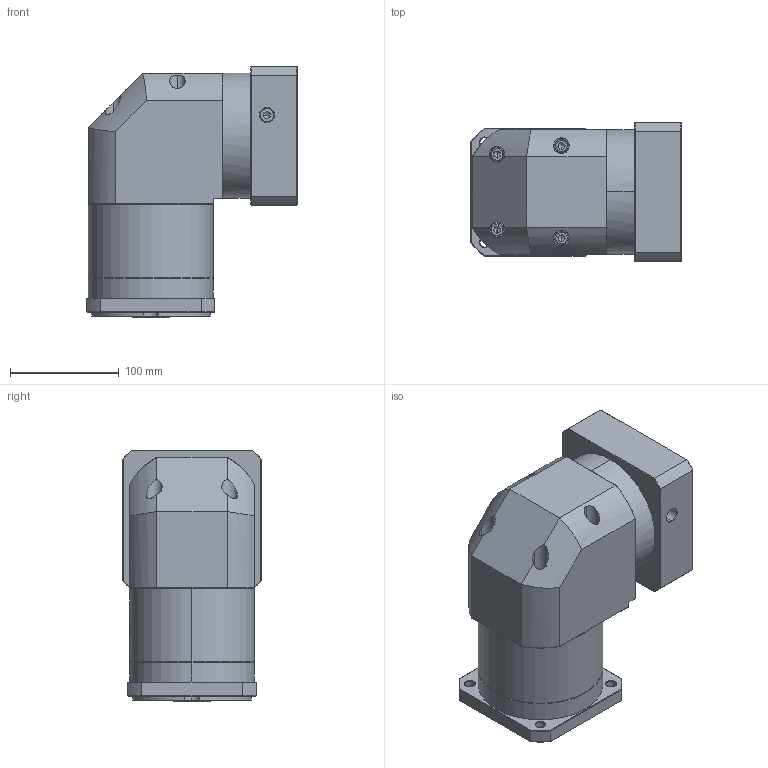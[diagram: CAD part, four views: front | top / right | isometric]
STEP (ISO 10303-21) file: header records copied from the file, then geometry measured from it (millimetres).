
FILE_DESCRIPTION (( 'STEP AP214' ), '1' );
FILE_NAME ('ZFR120A-K25-L2-P2-24-110-145-M8.step', '2023-08-27T08:15:59', ( '' ), ( '' ), 'SwSTEP 2.0', 'SolidWorks 2016', '' );
FILE_SCHEMA (( 'AUTOMOTIVE_DESIGN' ));
Length unit declared in the file: millimetre
Products named in the file (1): ZFR120A-K25-L2-P2-24-110-145-M8
Bounding box: 193.9 x 128 x 231.5 mm (x, y, z)
Volume: 3224707 mm3; surface area: 259635.5 mm2
Topology: 6 solids, 6 shells, 2209 faces, 5838 edges, 3734 vertices
Faces by surface type: plane 1054, bspline 415, cylinder 401, cone 331, torus 8
Entity records: 118762 total; most frequent: CARTESIAN_POINT 45058, ORIENTED_EDGE 11620, DIRECTION 8449, EDGE_CURVE 5810, VERTEX_POINT 3734, LINE 3107, VECTOR 3107, AXIS2_PLACEMENT_3D 2671
